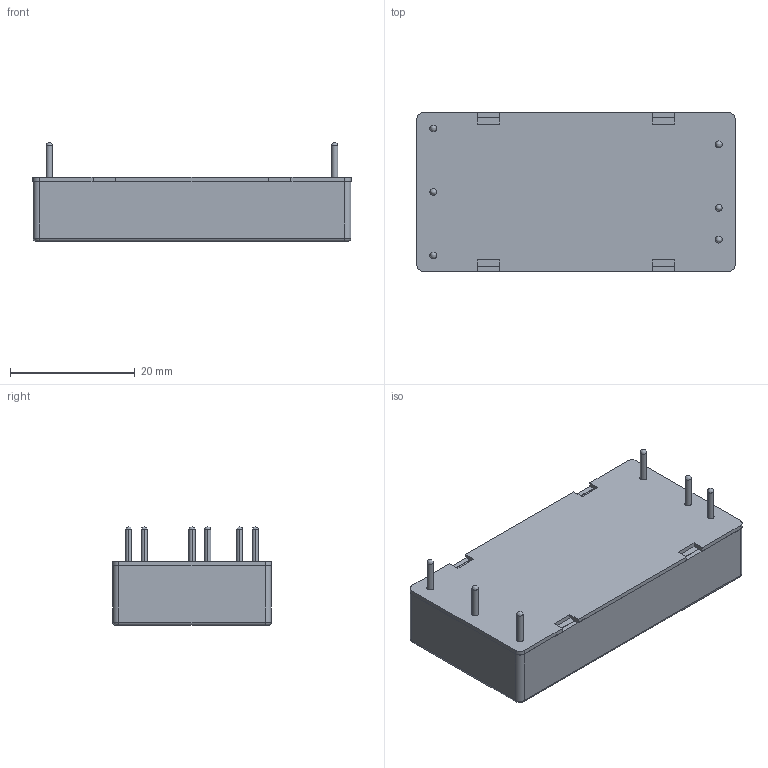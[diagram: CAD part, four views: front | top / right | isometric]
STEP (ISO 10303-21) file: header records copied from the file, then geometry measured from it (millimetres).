
FILE_DESCRIPTION (( 'STEP AP214' ), '1' );
FILE_NAME ('ten40win.STEP', '2016-03-31T15:01:29', ( '' ), ( '' ), 'SwSTEP 2.0', 'SolidWorks 2013', '' );
FILE_SCHEMA (( 'AUTOMOTIVE_DESIGN' ));
Length unit declared in the file: millimetre
Products named in the file (3): pin; case; ten40win
Assembly tree (2 placements, depth 2):
  ten40win
    case
    pin
Bounding box: 50.95 x 25.45 x 15.8 mm (x, y, z)
Volume: 2204 mm3; surface area: 8136.2 mm2
Topology: 7 solids, 7 shells, 124 faces, 316 edges, 188 vertices
Faces by surface type: plane 66, cylinder 44, bspline 10, torus 4
Entity records: 5253 total; most frequent: CARTESIAN_POINT 767, DIRECTION 630, ORIENTED_EDGE 600, EDGE_CURVE 300, AXIS2_PLACEMENT_3D 211, VECTOR 208, LINE 208, VERTEX_POINT 188
